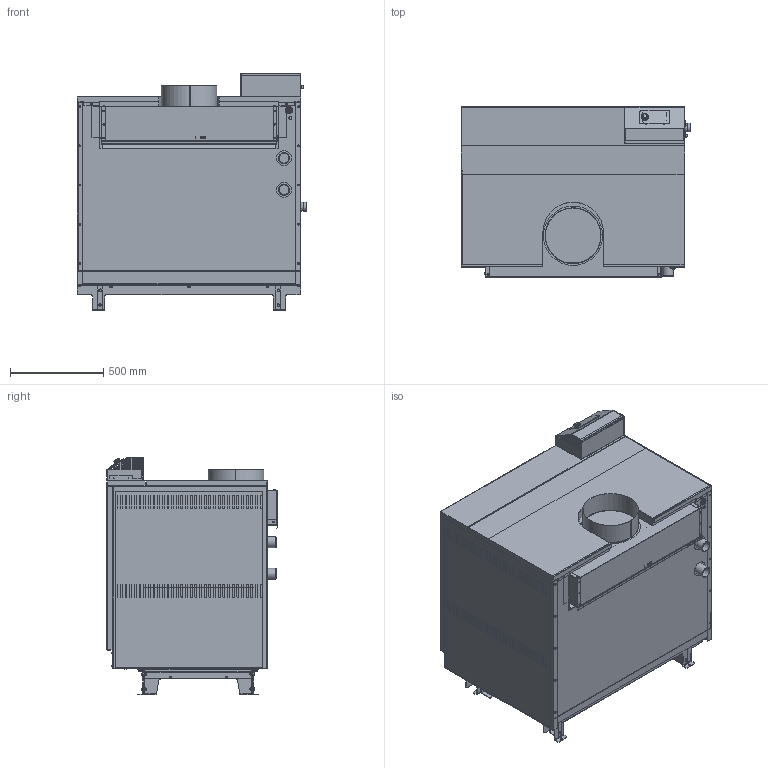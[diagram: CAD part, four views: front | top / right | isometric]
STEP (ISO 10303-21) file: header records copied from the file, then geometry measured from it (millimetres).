
FILE_DESCRIPTION(('STEP AP203'), '1');
FILE_NAME('ÊÅÂÌ.3107.00.00.000-02 ÑÁ Êîòåë ñòàëüíîé âîäîãðåéíûé TITAN V Ì', '2026-07-22T09:05:59', (''), (''), 'ASCON STEP Converter 1.6', 'ASCON Math Kernel', '');
FILE_SCHEMA(('CONFIG_CONTROL_DESIGN'));
Length unit declared in the file: millimetre
Products named in the file (1): КЕВМ.3107.00.00.000-02 СБ
Bounding box: 1231 x 919.43 x 1275 mm (x, y, z)
Volume: 928486866.8 mm3; surface area: 21676479.9 mm2
Topology: 10 solids, 10 shells, 5840 faces, 15274 edges, 9735 vertices
Faces by surface type: plane 3676, cylinder 1491, bspline 428, cone 113, torus 92, sphere 38, extrusion 2
Full cylindrical faces by diameter (mm): 1.5 x6, 2 x3, 2.45 x14, 2.5 x6, 3.5 x21, 4 x36, 4.2 x42, 4.5 x36, 4.7 x1, 5 x4, 5.2 x4, 6 x5, 6.4 x4, 7 x2, 8 x32, 8.5 x18, 9 x14, 10 x41, 10.421 x1, 12 x1, 14 x1, 14.795 x1, 15 x1, 16 x14, 18 x4, 19.169 x1, 23.542 x1, 24.5 x2, 27.916 x1, 30.664 x1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
Entity records: 211578 total; most frequent: CARTESIAN_POINT 68734, ORIENTED_EDGE 29444, DIRECTION 28141, EDGE_CURVE 14722, VECTOR 9921, LINE 9919, VERTEX_POINT 9734, AXIS2_PLACEMENT_3D 9110
